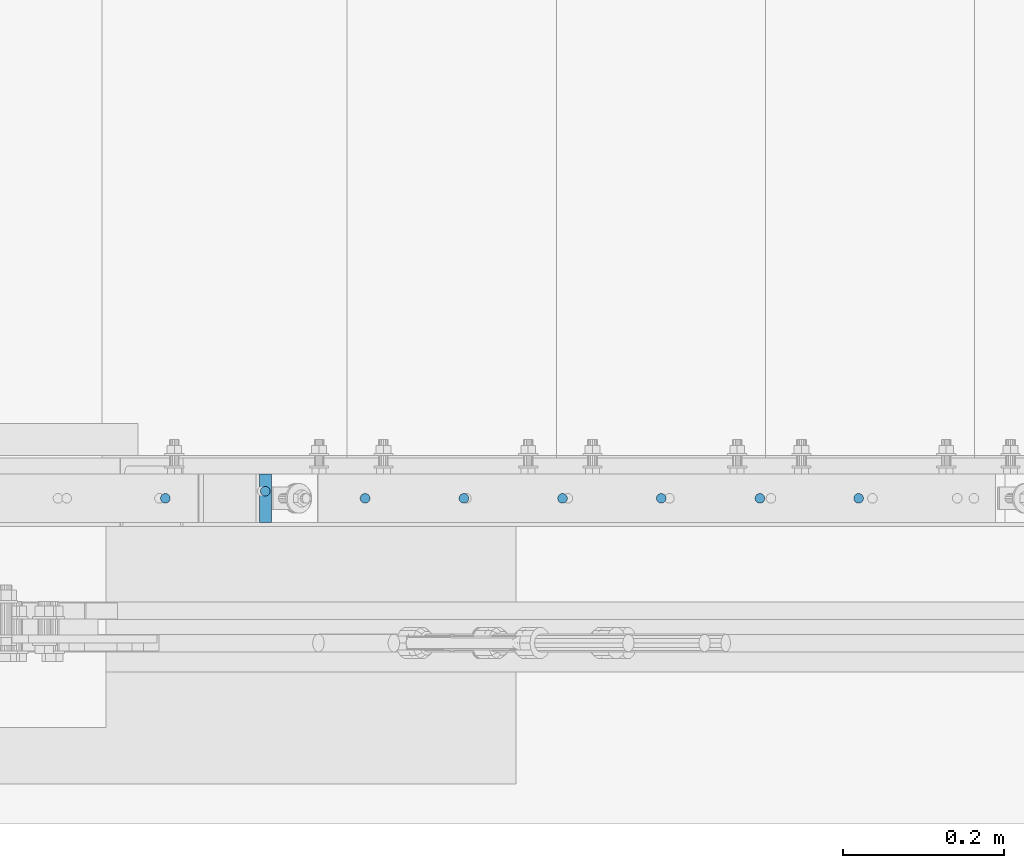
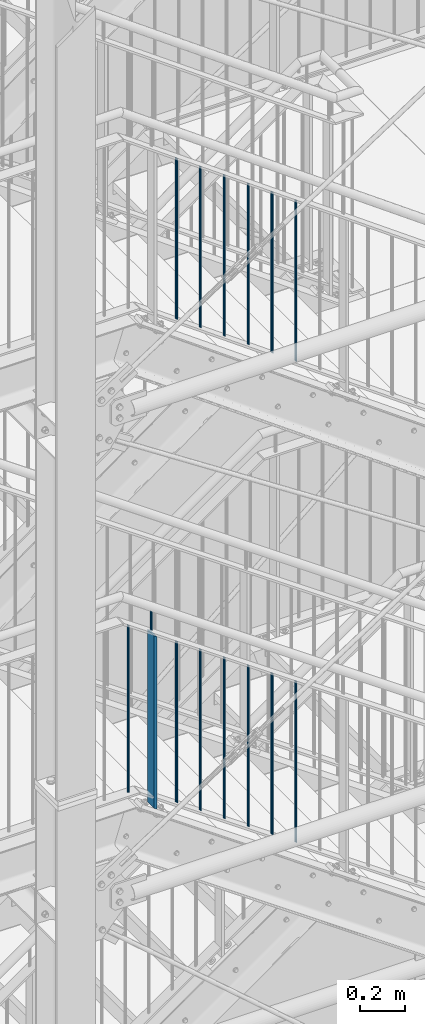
# One storey, part 35 of 831: 15 columns.
"""IFC2X3 building model written with IfcOpenShell, lengths in millimetres."""

from ifc_helpers import new_model, entity, si_unit, converted_unit, frame, origin, origin_with_axes, origin_2d, place, context, project, spatial, rectangle, circle, extrude, clip, halfspace, material, element, save


model = new_model("IFC2X3")

# Units and contexts
model_context = context("Model", 3, precision=1e-09, world=origin_with_axes())
ifc_project = project(units=[si_unit("LENGTHUNIT", "METRE", prefix="MILLI"), si_unit("AREAUNIT", "SQUARE_METRE"), si_unit("VOLUMEUNIT", "CUBIC_METRE"), converted_unit("PLANEANGLEUNIT", "DEGREE", entity("IfcPlaneAngleMeasure", 0.01745329), si_unit("PLANEANGLEUNIT", "RADIAN"), dimensions=[0, 0, 0, 0, 0, 0, 0])], contexts=[model_context])

# Site, building, storey
site_placement = place(None, origin_with_axes())
site = spatial("IfcSite", under=ifc_project, at=site_placement, Name="Site", CompositionType="ELEMENT")
building_placement = place(site_placement, origin_with_axes())
building = spatial("IfcBuilding", under=site, at=building_placement, Name="Struktur 1", CompositionType="ELEMENT")
storey_placement = place(building_placement, origin_with_axes())
storey = spatial("IfcBuildingStorey", under=building, at=storey_placement, Name="Default Storey", CompositionType="ELEMENT", Elevation=0.0)

# Columns
ifc_material = material(Name="S235JR")
column_1_placement = place(None, frame((5394.791831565, 4526.736971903, 8248.52685731), z_axis=(0.0, 0.0, 1.0), x_axis=(-1.0, 0.0, 0.0)))
element("IfcColumn", 1, at=column_1_placement, inside=storey, material=ifc_material, Name="Railing_Post_Stair#11", ObjectType="Railing_Post_Stair#11", context=model_context, shape_type="Clipping", body=[
    clip(clip(extrude(rectangle(XDim=15.0, YDim=60.0, at=origin_2d()), origin(), (0.0, 0.0, -1.0), 1013.014378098), halfspace(frame((188.311809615, 4526.736971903, -842.822478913), z_axis=(-0.57512827, 0.0, 0.818063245), x_axis=(0.0, -1.0, 0.0)), True)), halfspace(frame((-252.73177147, 4526.736971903, -215.481479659), z_axis=(0.57512827, 0.0, -0.818063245), x_axis=(0.0, 1.0, 0.0)), True)),
])
column_2_placement = place(None, frame((6132.791950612, 4526.736971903, 7702.257672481), z_axis=(0.0, 0.0, 1.0), x_axis=(-1.0, 0.0, 0.0)))
element("IfcColumn", 2, at=column_2_placement, inside=storey, material=ifc_material, Name="Railing_Picket_Stair#70", ObjectType="Railing_Picket_Stair#70", context=model_context, shape_type="Clipping", body=[
    clip(clip(extrude(circle(Radius=6.0, at=origin_2d()), origin(), (0.0, 0.0, -1.0), 897.037988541), halfspace(frame((485.268347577, 4526.736971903, 330.78770517), z_axis=(0.57512827, 0.0, -0.818063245), x_axis=(0.0, 1.0, 0.0)), True)), halfspace(frame((897.555515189, 4526.736971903, -255.650131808), z_axis=(-0.57512827, 0.0, 0.818063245), x_axis=(0.0, -1.0, 0.0)), True)),
])
column_3_placement = place(None, frame((6010.041926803, 4526.736971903, 7788.555411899), z_axis=(0.0, 0.0, 1.0), x_axis=(-1.0, 0.0, 0.0)))
element("IfcColumn", 3, at=column_3_placement, inside=storey, material=ifc_material, Name="Railing_Picket_Stair#71", ObjectType="Railing_Picket_Stair#71", context=model_context, shape_type="Clipping", body=[
    clip(clip(extrude(circle(Radius=6.0, at=origin_2d()), origin(), (0.0, 0.0, -1.0), 897.037988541), halfspace(frame((362.518323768, 4526.736971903, 244.489965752), z_axis=(0.57512827, 0.0, -0.818063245), x_axis=(0.0, 1.0, 0.0)), True)), halfspace(frame((774.805491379, 4526.736971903, -341.947871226), z_axis=(-0.57512827, 0.0, 0.818063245), x_axis=(0.0, -1.0, 0.0)), True)),
])
column_4_placement = place(None, frame((5887.291902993, 4526.736971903, 7874.853151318), z_axis=(0.0, 0.0, 1.0), x_axis=(-1.0, 0.0, 0.0)))
element("IfcColumn", 4, at=column_4_placement, inside=storey, material=ifc_material, Name="Railing_Picket_Stair#72", ObjectType="Railing_Picket_Stair#72", context=model_context, shape_type="Clipping", body=[
    clip(clip(extrude(circle(Radius=6.0, at=origin_2d()), origin(), (0.0, 0.0, -1.0), 897.037988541), halfspace(frame((239.768299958, 4526.736971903, 158.192226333), z_axis=(0.57512827, 0.0, -0.818063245), x_axis=(0.0, 1.0, 0.0)), True)), halfspace(frame((652.05546757, 4526.736971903, -428.245610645), z_axis=(-0.57512827, 0.0, 0.818063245), x_axis=(0.0, -1.0, 0.0)), True)),
])
column_5_placement = place(None, frame((5764.541879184, 4526.736971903, 7961.150890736), z_axis=(0.0, 0.0, 1.0), x_axis=(-1.0, 0.0, 0.0)))
element("IfcColumn", 5, at=column_5_placement, inside=storey, material=ifc_material, Name="Railing_Picket_Stair#73", ObjectType="Railing_Picket_Stair#73", context=model_context, shape_type="Clipping", body=[
    clip(clip(extrude(circle(Radius=6.0, at=origin_2d()), origin(), (0.0, 0.0, -1.0), 897.037988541), halfspace(frame((117.018276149, 4526.736971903, 71.894486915), z_axis=(0.57512827, 0.0, -0.818063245), x_axis=(0.0, 1.0, 0.0)), True)), halfspace(frame((529.30544376, 4526.736971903, -514.543350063), z_axis=(-0.57512827, 0.0, 0.818063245), x_axis=(0.0, -1.0, 0.0)), True)),
])
column_6_placement = place(None, frame((5641.791855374, 4526.736971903, 8047.448630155), z_axis=(0.0, 0.0, 1.0), x_axis=(-1.0, 0.0, 0.0)))
element("IfcColumn", 6, at=column_6_placement, inside=storey, material=ifc_material, Name="Railing_Picket_Stair#74", ObjectType="Railing_Picket_Stair#74", context=model_context, shape_type="Clipping", body=[
    clip(clip(extrude(circle(Radius=6.0, at=origin_2d()), origin(), (0.0, 0.0, -1.0), 897.037988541), halfspace(frame((-5.731747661, 4526.736971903, -14.403252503), z_axis=(0.57512827, 0.0, -0.818063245), x_axis=(0.0, 1.0, 0.0)), True)), halfspace(frame((406.555419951, 4526.736971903, -600.841089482), z_axis=(-0.57512827, 0.0, 0.818063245), x_axis=(0.0, -1.0, 0.0)), True)),
])
column_7_placement = place(None, frame((5519.041831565, 4526.736971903, 8133.746369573), z_axis=(0.0, 0.0, 1.0), x_axis=(-1.0, 0.0, 0.0)))
element("IfcColumn", 7, at=column_7_placement, inside=storey, material=ifc_material, Name="Railing_Picket_Stair#75", ObjectType="Railing_Picket_Stair#75", context=model_context, shape_type="Clipping", body=[
    clip(clip(extrude(circle(Radius=6.0, at=origin_2d()), origin(), (0.0, 0.0, -1.0), 897.037988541), halfspace(frame((-128.48177147, 4526.736971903, -100.700991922), z_axis=(0.57512827, 0.0, -0.818063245), x_axis=(0.0, 1.0, 0.0)), True)), halfspace(frame((283.805396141, 4526.736971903, -687.1388289), z_axis=(-0.57512827, 0.0, 0.818063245), x_axis=(0.0, -1.0, 0.0)), True)),
])
column_8_placement = place(None, frame((5270.541831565, 4526.736971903, 8308.450924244), z_axis=(0.0, 0.0, 1.0), x_axis=(-1.0, 0.0, 0.0)))
element("IfcColumn", 8, at=column_8_placement, inside=storey, material=ifc_material, Name="Railing_Picket_Landing#76", ObjectType="Railing_Picket_Landing#76", context=model_context, shape_type="Clipping", body=[
    clip(extrude(circle(Radius=6.0, at=origin_2d()), origin(), (0.0, 0.0, -1.0), 918.450924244), halfspace(frame((-376.98177147, 4526.736971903, -275.405546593), z_axis=(0.57512827, 0.0, -0.818063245), x_axis=(0.0, 1.0, 0.0)), True)),
])
column_9_placement = place(None, frame((5394.791831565, 4535.536971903, 8333.322640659), z_axis=(0.0, 0.0, 1.0), x_axis=(0.0, 1.0, 0.0)))
element("IfcColumn", 9, at=column_9_placement, inside=storey, material=ifc_material, Name="Bar#11", ObjectType="Bar#11", context=model_context, shape_type="Clipping", body=[
    clip(clip(extrude(circle(Radius=6.0, at=origin_2d()), origin(), (0.0, 0.0, -1.0), 120.744805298), halfspace(frame((-4535.536971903, -305.532184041, -225.1738832), z_axis=(0.0, 0.57512827, -0.818063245), x_axis=(-1.0, 0.0, 0.0)), True)), halfspace(frame((-4535.536971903, -258.484204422, -292.094994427), z_axis=(0.0, -0.57512827, 0.818063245), x_axis=(1.0, 0.0, 0.0)), True)),
])
column_10_placement = place(None, frame((6132.791950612, 4526.736971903, 10316.03554289), z_axis=(0.0, 0.0, 1.0), x_axis=(-1.0, 0.0, 0.0)))
element("IfcColumn", 10, at=column_10_placement, inside=storey, material=ifc_material, Name="Railing_Picket_Stair#70", ObjectType="Railing_Picket_Stair#70", context=model_context, shape_type="Clipping", body=[
    clip(clip(extrude(circle(Radius=6.0, at=origin_2d()), origin(), (0.0, 0.0, -1.0), 896.05799959), halfspace(frame((-866.094114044, 4526.736971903, -636.72502794), z_axis=(0.585945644, 0.0, -0.810350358), x_axis=(0.0, 1.0, 0.0)), True)), halfspace(frame((-450.571723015, 4526.736971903, -1211.383653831), z_axis=(-0.585945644, 0.0, 0.810350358), x_axis=(0.0, -1.0, 0.0)), True)),
])
column_11_placement = place(None, frame((6010.041926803, 4526.736971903, 10404.793252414), z_axis=(0.0, 0.0, 1.0), x_axis=(-1.0, 0.0, 0.0)))
element("IfcColumn", 11, at=column_11_placement, inside=storey, material=ifc_material, Name="Railing_Picket_Stair#71", ObjectType="Railing_Picket_Stair#71", context=model_context, shape_type="Clipping", body=[
    clip(clip(extrude(circle(Radius=6.0, at=origin_2d()), origin(), (0.0, 0.0, -1.0), 896.05799959), halfspace(frame((-988.844137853, 4526.736971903, -725.482737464), z_axis=(0.585945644, 0.0, -0.810350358), x_axis=(0.0, 1.0, 0.0)), True)), halfspace(frame((-573.321746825, 4526.736971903, -1300.141363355), z_axis=(-0.585945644, 0.0, 0.810350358), x_axis=(0.0, -1.0, 0.0)), True)),
])
column_12_placement = place(None, frame((5887.291902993, 4526.736971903, 10493.550961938), z_axis=(0.0, 0.0, 1.0), x_axis=(-1.0, 0.0, 0.0)))
element("IfcColumn", 12, at=column_12_placement, inside=storey, material=ifc_material, Name="Railing_Picket_Stair#72", ObjectType="Railing_Picket_Stair#72", context=model_context, shape_type="Clipping", body=[
    clip(clip(extrude(circle(Radius=6.0, at=origin_2d()), origin(), (0.0, 0.0, -1.0), 896.05799959), halfspace(frame((-1111.594161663, 4526.736971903, -814.240446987), z_axis=(0.585945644, 0.0, -0.810350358), x_axis=(0.0, 1.0, 0.0)), True)), halfspace(frame((-696.071770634, 4526.736971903, -1388.899072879), z_axis=(-0.585945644, 0.0, 0.810350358), x_axis=(0.0, -1.0, 0.0)), True)),
])
column_13_placement = place(None, frame((5764.541879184, 4526.736971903, 10582.308671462), z_axis=(0.0, 0.0, 1.0), x_axis=(-1.0, 0.0, 0.0)))
element("IfcColumn", 13, at=column_13_placement, inside=storey, material=ifc_material, Name="Railing_Picket_Stair#73", ObjectType="Railing_Picket_Stair#73", context=model_context, shape_type="Clipping", body=[
    clip(clip(extrude(circle(Radius=6.0, at=origin_2d()), origin(), (0.0, 0.0, -1.0), 896.05799959), halfspace(frame((-1234.344185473, 4526.736971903, -902.998156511), z_axis=(0.585945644, 0.0, -0.810350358), x_axis=(0.0, 1.0, 0.0)), True)), halfspace(frame((-818.821794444, 4526.736971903, -1477.656782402), z_axis=(-0.585945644, 0.0, 0.810350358), x_axis=(0.0, -1.0, 0.0)), True)),
])
column_14_placement = place(None, frame((5641.791855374, 4526.736971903, 10671.066380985), z_axis=(0.0, 0.0, 1.0), x_axis=(-1.0, 0.0, 0.0)))
element("IfcColumn", 14, at=column_14_placement, inside=storey, material=ifc_material, Name="Railing_Picket_Stair#74", ObjectType="Railing_Picket_Stair#74", context=model_context, shape_type="Clipping", body=[
    clip(clip(extrude(circle(Radius=6.0, at=origin_2d()), origin(), (0.0, 0.0, -1.0), 896.05799959), halfspace(frame((-1357.094209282, 4526.736971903, -991.755866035), z_axis=(0.585945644, 0.0, -0.810350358), x_axis=(0.0, 1.0, 0.0)), True)), halfspace(frame((-941.571818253, 4526.736971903, -1566.414491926), z_axis=(-0.585945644, 0.0, 0.810350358), x_axis=(0.0, -1.0, 0.0)), True)),
])
column_15_placement = place(None, frame((5519.041831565, 4526.736971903, 10759.824090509), z_axis=(0.0, 0.0, 1.0), x_axis=(-1.0, 0.0, 0.0)))
element("IfcColumn", 15, at=column_15_placement, inside=storey, material=ifc_material, Name="Railing_Picket_Stair#75", ObjectType="Railing_Picket_Stair#75", context=model_context, shape_type="Clipping", body=[
    clip(clip(extrude(circle(Radius=6.0, at=origin_2d()), origin(), (0.0, 0.0, -1.0), 896.05799959), halfspace(frame((-1479.844233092, 4526.736971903, -1080.513575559), z_axis=(0.585945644, 0.0, -0.810350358), x_axis=(0.0, 1.0, 0.0)), True)), halfspace(frame((-1064.321842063, 4526.736971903, -1655.17220145), z_axis=(-0.585945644, 0.0, 0.810350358), x_axis=(0.0, -1.0, 0.0)), True)),
])

save(model, "model.ifc")
